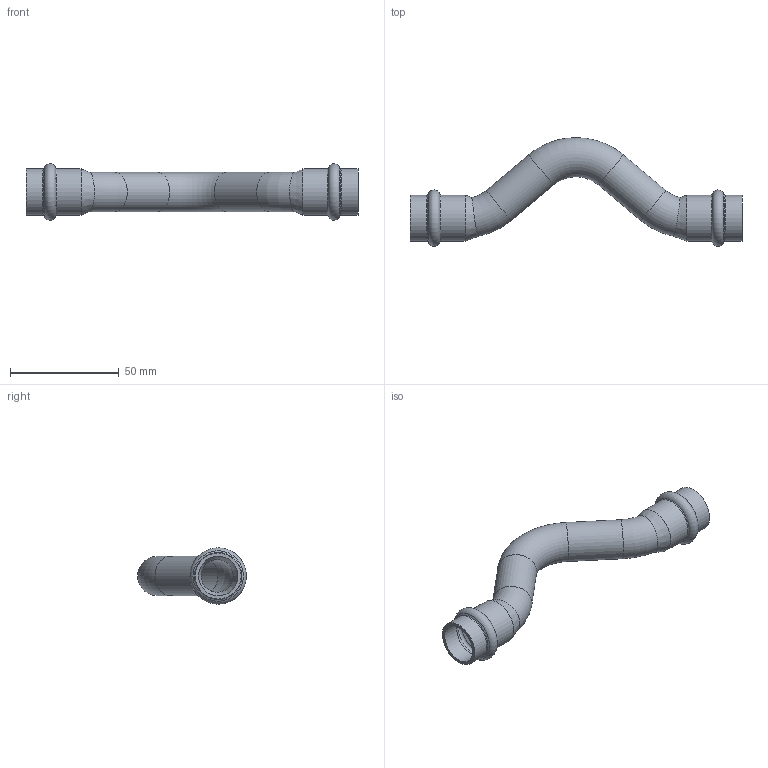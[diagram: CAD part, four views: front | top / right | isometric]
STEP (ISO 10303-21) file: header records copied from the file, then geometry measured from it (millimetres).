
FILE_DESCRIPTION((''),'2;1');
FILE_NAME('G:\Technics\CAD\Bauteile\018\6908518(2).stp','2008-02-14T09:22:02',('herberg'),(''),'Autodesk Inventor 2008','Autodesk Inventor 2008','');
FILE_SCHEMA(('AUTOMOTIVE_DESIGN { 1 0 10303 214 1 1 1 1 }'));
Length unit declared in the file: millimetre
Products named in the file (1): 6908518(2)
Bounding box: 152.5 x 49.95 x 25.9 mm (x, y, z)
Volume: 14661.4 mm3; surface area: 19733.3 mm2
Topology: 1 solids, 1 shells, 40 faces, 88 edges, 50 vertices
Faces by surface type: cylinder 12, torus 10, cone 8, bspline 8, plane 2
Full cylindrical faces by diameter (mm): 15 x2, 18 x2, 18.15 x4, 21.15 x4
Entity records: 1282 total; most frequent: CARTESIAN_POINT 613, DIRECTION 138, ORIENTED_EDGE 80, EDGE_LOOP 80, AXIS2_PLACEMENT_3D 69, VERTEX_POINT 40, EDGE_CURVE 40, FACE_OUTER_BOUND 40
